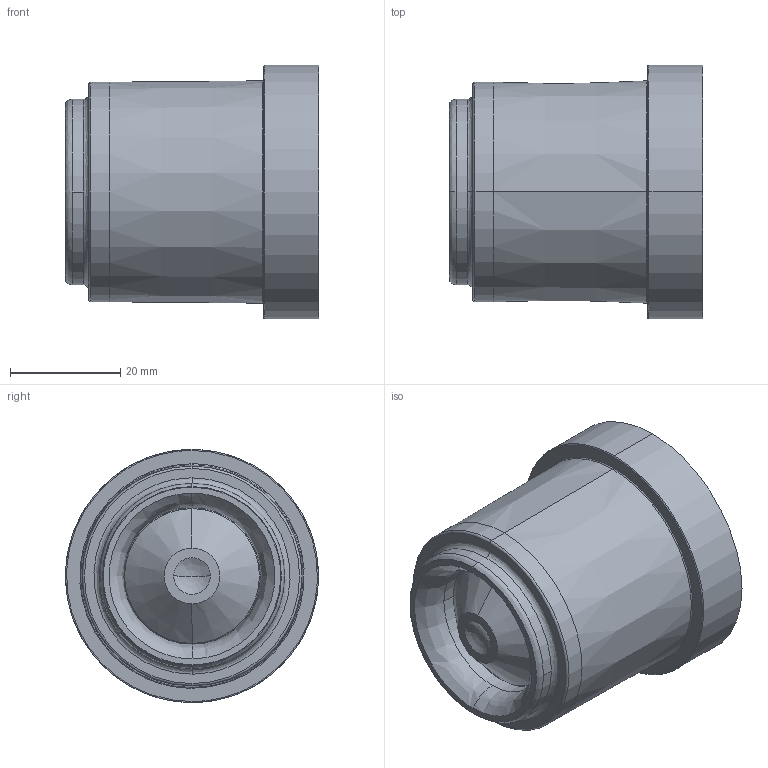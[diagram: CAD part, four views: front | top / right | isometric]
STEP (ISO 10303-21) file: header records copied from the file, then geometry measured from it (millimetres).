
FILE_DESCRIPTION (( 'STEP AP203' ), '1' );
FILE_NAME ('WM040-W149040600.STEP', '2020-04-08T14:48:26', ( '' ), ( '' ), 'SwSTEP 2.0', 'SolidWorks 2017', '' );
FILE_SCHEMA (( 'CONFIG_CONTROL_DESIGN' ));
Length unit declared in the file: metre
Products named in the file (6): WM040-W149040600; PRT_FRVIR_0000008078; PRT_FRVIR_0000008031; PRT_FRVIR_0000008106; PRT_FRVIR_0000008107; PRT_FRVIR_0000008049_D40Spl(monté)
Assembly tree (5 placements, depth 2):
  WM040-W149040600
    PRT_FRVIR_0000008106
    PRT_FRVIR_0000008107
    PRT_FRVIR_0000008031
    PRT_FRVIR_0000008049_D40Spl(monté)
    PRT_FRVIR_0000008078
Bounding box: 46.1 x 46 x 46 mm (x, y, z)
Volume: 24618.1 mm3; surface area: 28633.9 mm2
Topology: 10 solids, 10 shells, 437 faces, 1094 edges, 689 vertices
Faces by surface type: plane 175, bspline 129, cylinder 74, cone 55, torus 4
Entity records: 20168 total; most frequent: CARTESIAN_POINT 10196, ORIENTED_EDGE 2164, DIRECTION 1628, EDGE_CURVE 1082, VERTEX_POINT 689, AXIS2_PLACEMENT_3D 574, LINE 480, VECTOR 480
